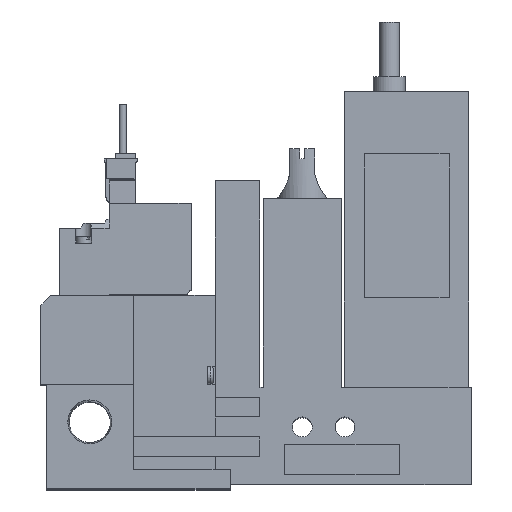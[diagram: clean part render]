
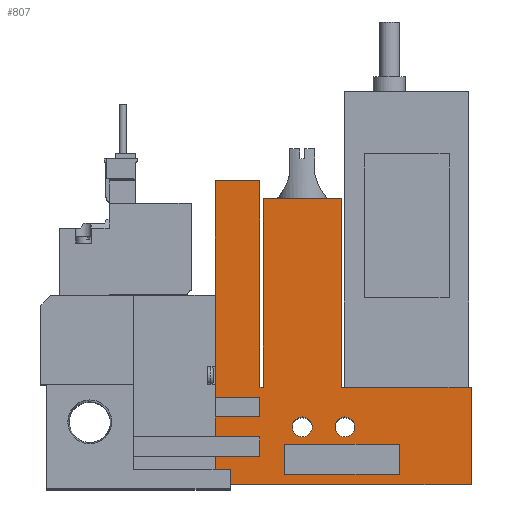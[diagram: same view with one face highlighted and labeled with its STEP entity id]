
A CAD part, top view. The second image highlights one B-rep face of the part: STEP entity #807.
In plain terms, the highlighted planar face has unit normal (0, 0, 1).
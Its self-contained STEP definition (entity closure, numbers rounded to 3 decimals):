
#807=ADVANCED_FACE('',(#1647,#1648,#1649,#1650),#1651,.T.);
#1647=FACE_OUTER_BOUND('',#2684,.T.);
#1648=FACE_BOUND('',#2685,.T.);
#1649=FACE_BOUND('',#2686,.T.);
#1650=FACE_BOUND('',#2687,.T.);
#1651=PLANE('',#2688);
#2684=EDGE_LOOP('',(#5705,#5706,#5707,#5708,#5709,#5710,#5711,#5712,#5713,#5714,#5715,#5716,#5717,#5718,#5719,#5720,#5721,#5722));
#2685=EDGE_LOOP('',(#5723,#5724,#5725,#5726));
#2686=EDGE_LOOP('',(#5727));
#2687=EDGE_LOOP('',(#5728));
#2688=AXIS2_PLACEMENT_3D('',#5729,#5730,#5731);
#5705=ORIENTED_EDGE('',*,*,#7299,.T.);
#5706=ORIENTED_EDGE('',*,*,#7192,.T.);
#5707=ORIENTED_EDGE('',*,*,#7301,.T.);
#5708=ORIENTED_EDGE('',*,*,#7182,.T.);
#5709=ORIENTED_EDGE('',*,*,#7173,.T.);
#5710=ORIENTED_EDGE('',*,*,#7292,.T.);
#5711=ORIENTED_EDGE('',*,*,#7284,.T.);
#5712=ORIENTED_EDGE('',*,*,#7276,.T.);
#5713=ORIENTED_EDGE('',*,*,#7178,.T.);
#5714=ORIENTED_EDGE('',*,*,#7233,.T.);
#5715=ORIENTED_EDGE('',*,*,#7196,.T.);
#5716=ORIENTED_EDGE('',*,*,#7274,.T.);
#5717=ORIENTED_EDGE('',*,*,#7282,.T.);
#5718=ORIENTED_EDGE('',*,*,#7302,.T.);
#5719=ORIENTED_EDGE('',*,*,#7236,.T.);
#5720=ORIENTED_EDGE('',*,*,#7156,.T.);
#5721=ORIENTED_EDGE('',*,*,#7291,.T.);
#5722=ORIENTED_EDGE('',*,*,#7255,.T.);
#5723=ORIENTED_EDGE('',*,*,#7293,.T.);
#5724=ORIENTED_EDGE('',*,*,#7242,.T.);
#5725=ORIENTED_EDGE('',*,*,#7289,.T.);
#5726=ORIENTED_EDGE('',*,*,#7246,.T.);
#5727=ORIENTED_EDGE('',*,*,#7270,.T.);
#5728=ORIENTED_EDGE('',*,*,#7171,.T.);
#5729=CARTESIAN_POINT('',(0.0,0.0,10.0));
#5730=DIRECTION('',(0.0,0.0,1.0));
#5731=DIRECTION('',(1.0,0.0,0.0));
#7156=EDGE_CURVE('',#8721,#8719,#8722,.T.);
#7171=EDGE_CURVE('',#8748,#8748,#8749,.T.);
#7173=EDGE_CURVE('',#8752,#8750,#8753,.T.);
#7178=EDGE_CURVE('',#8756,#8760,#8762,.T.);
#7182=EDGE_CURVE('',#8763,#8752,#8769,.T.);
#7192=EDGE_CURVE('',#8779,#8785,#8787,.T.);
#7196=EDGE_CURVE('',#8794,#8792,#8795,.T.);
#7233=EDGE_CURVE('',#8760,#8794,#8853,.T.);
#7236=EDGE_CURVE('',#8857,#8721,#8858,.T.);
#7242=EDGE_CURVE('',#8861,#8866,#8868,.T.);
#7246=EDGE_CURVE('',#8869,#8874,#8876,.T.);
#7255=EDGE_CURVE('',#8890,#8888,#8891,.T.);
#7270=EDGE_CURVE('',#8912,#8912,#8913,.T.);
#7274=EDGE_CURVE('',#8792,#8916,#8918,.T.);
#7276=EDGE_CURVE('',#8920,#8756,#8921,.T.);
#7282=EDGE_CURVE('',#8916,#8927,#8929,.T.);
#7284=EDGE_CURVE('',#8930,#8920,#8932,.T.);
#7289=EDGE_CURVE('',#8866,#8869,#8937,.T.);
#7291=EDGE_CURVE('',#8719,#8890,#8939,.T.);
#7292=EDGE_CURVE('',#8750,#8930,#8940,.T.);
#7293=EDGE_CURVE('',#8874,#8861,#8941,.T.);
#7299=EDGE_CURVE('',#8888,#8779,#8949,.T.);
#7301=EDGE_CURVE('',#8785,#8763,#8950,.T.);
#7302=EDGE_CURVE('',#8927,#8857,#8951,.T.);
#8719=VERTEX_POINT('',#11218);
#8721=VERTEX_POINT('',#11221);
#8722=LINE('',#11222,#11223);
#8748=VERTEX_POINT('',#11262);
#8749=CIRCLE('',#11263,2.0);
#8750=VERTEX_POINT('',#11264);
#8752=VERTEX_POINT('',#11267);
#8753=LINE('',#11268,#11269);
#8756=VERTEX_POINT('',#11273);
#8760=VERTEX_POINT('',#11279);
#8762=LINE('',#11282,#11283);
#8763=VERTEX_POINT('',#11284);
#8769=LINE('',#11293,#11294);
#8779=VERTEX_POINT('',#11307);
#8785=VERTEX_POINT('',#11316);
#8787=LINE('',#11319,#11320);
#8792=VERTEX_POINT('',#11327);
#8794=VERTEX_POINT('',#11330);
#8795=LINE('',#11331,#11332);
#8853=LINE('',#11424,#11425);
#8857=VERTEX_POINT('',#11431);
#8858=LINE('',#11432,#11433);
#8861=VERTEX_POINT('',#11438);
#8866=VERTEX_POINT('',#11445);
#8868=LINE('',#11448,#11449);
#8869=VERTEX_POINT('',#11450);
#8874=VERTEX_POINT('',#11457);
#8876=LINE('',#11460,#11461);
#8888=VERTEX_POINT('',#11477);
#8890=VERTEX_POINT('',#11480);
#8891=LINE('',#11481,#11482);
#8912=VERTEX_POINT('',#11517);
#8913=CIRCLE('',#11518,2.0);
#8916=VERTEX_POINT('',#11523);
#8918=LINE('',#11526,#11527);
#8920=VERTEX_POINT('',#11530);
#8921=LINE('',#11531,#11532);
#8927=VERTEX_POINT('',#11541);
#8929=LINE('',#11544,#11545);
#8930=VERTEX_POINT('',#11546);
#8932=LINE('',#11549,#11550);
#8937=LINE('',#11559,#11560);
#8939=LINE('',#11563,#11564);
#8940=LINE('',#11565,#11566);
#8941=LINE('',#11567,#11568);
#8949=LINE('',#11580,#11581);
#8950=LINE('',#11582,#11583);
#8951=LINE('',#11584,#11585);
#11218=CARTESIAN_POINT('',(44.1,19.5,10.0));
#11221=CARTESIAN_POINT('',(44.75,19.5,10.0));
#11222=CARTESIAN_POINT('',(44.75,19.5,10.0));
#11223=VECTOR('',#13156,1.0);
#11262=CARTESIAN_POINT('',(63.2,11.5,10.0));
#11263=AXIS2_PLACEMENT_3D('',#13173,#13174,#13175);
#11264=CARTESIAN_POINT('',(35.1,9.5,10.0));
#11267=CARTESIAN_POINT('',(35.1,13.5,10.0));
#11268=CARTESIAN_POINT('',(35.1,0.0,10.0));
#11269=VECTOR('',#13177,1.0);
#11273=CARTESIAN_POINT('',(35.1,5.5,10.0));
#11279=CARTESIAN_POINT('',(35.1,0.0,10.0));
#11282=CARTESIAN_POINT('',(35.1,0.0,10.0));
#11283=VECTOR('',#13182,1.0);
#11284=CARTESIAN_POINT('',(44.1,13.5,10.0));
#11293=CARTESIAN_POINT('',(0.0,13.5,10.0));
#11294=VECTOR('',#13186,1.0);
#11307=CARTESIAN_POINT('',(35.1,17.5,10.0));
#11316=CARTESIAN_POINT('',(44.1,17.5,10.0));
#11319=CARTESIAN_POINT('',(0.0,17.5,10.0));
#11320=VECTOR('',#13200,1.0);
#11327=CARTESIAN_POINT('',(86.6,19.5,10.0));
#11330=CARTESIAN_POINT('',(86.6,0.0,10.0));
#11331=CARTESIAN_POINT('',(86.6,0.0,10.0));
#11332=VECTOR('',#13204,1.0);
#11424=CARTESIAN_POINT('',(18.6,0.0,10.0));
#11425=VECTOR('',#13245,1.0);
#11431=CARTESIAN_POINT('',(44.75,57.5,10.0));
#11432=CARTESIAN_POINT('',(44.75,57.5,10.0));
#11433=VECTOR('',#13248,1.0);
#11438=CARTESIAN_POINT('',(49.1,8.0,10.0));
#11445=CARTESIAN_POINT('',(72.1,8.0,10.0));
#11448=CARTESIAN_POINT('',(0.0,8.0,10.0));
#11449=VECTOR('',#13254,1.0);
#11450=CARTESIAN_POINT('',(72.1,2.0,10.0));
#11457=CARTESIAN_POINT('',(49.1,2.0,10.0));
#11460=CARTESIAN_POINT('',(0.0,2.0,10.0));
#11461=VECTOR('',#13258,1.0);
#11477=CARTESIAN_POINT('',(35.1,61.0,10.0));
#11480=CARTESIAN_POINT('',(44.1,61.0,10.0));
#11481=CARTESIAN_POINT('',(44.1,61.0,10.0));
#11482=VECTOR('',#13273,1.0);
#11517=CARTESIAN_POINT('',(54.6,11.5,10.0));
#11518=AXIS2_PLACEMENT_3D('',#13288,#13289,#13290);
#11523=CARTESIAN_POINT('',(60.45,19.5,10.0));
#11526=CARTESIAN_POINT('',(86.6,19.5,10.0));
#11527=VECTOR('',#13294,1.0);
#11530=CARTESIAN_POINT('',(44.1,5.5,10.0));
#11531=CARTESIAN_POINT('',(0.0,5.5,10.0));
#11532=VECTOR('',#13296,1.0);
#11541=CARTESIAN_POINT('',(60.45,57.5,10.0));
#11544=CARTESIAN_POINT('',(60.45,19.5,10.0));
#11545=VECTOR('',#13304,1.0);
#11546=CARTESIAN_POINT('',(44.1,9.5,10.0));
#11549=CARTESIAN_POINT('',(44.1,0.0,10.0));
#11550=VECTOR('',#13306,1.0);
#11559=CARTESIAN_POINT('',(72.1,0.0,10.0));
#11560=VECTOR('',#13311,1.0);
#11563=CARTESIAN_POINT('',(44.1,19.5,10.0));
#11564=VECTOR('',#13313,1.0);
#11565=CARTESIAN_POINT('',(0.0,9.5,10.0));
#11566=VECTOR('',#13314,1.0);
#11567=CARTESIAN_POINT('',(49.1,0.0,10.0));
#11568=VECTOR('',#13315,1.0);
#11580=CARTESIAN_POINT('',(35.1,61.0,10.0));
#11581=VECTOR('',#13323,1.0);
#11582=CARTESIAN_POINT('',(44.1,0.0,10.0));
#11583=VECTOR('',#13324,1.0);
#11584=CARTESIAN_POINT('',(60.45,57.5,10.0));
#11585=VECTOR('',#13325,1.0);
#13156=DIRECTION('',(-1.0,0.0,0.0));
#13173=CARTESIAN_POINT('',(61.2,11.5,10.0));
#13174=DIRECTION('',(0.0,0.0,-1.0));
#13175=DIRECTION('',(1.0,0.0,0.0));
#13177=DIRECTION('',(0.0,-1.0,0.0));
#13182=DIRECTION('',(0.0,-1.0,0.0));
#13186=DIRECTION('',(-1.0,0.0,0.0));
#13200=DIRECTION('',(1.0,0.0,0.0));
#13204=DIRECTION('',(0.0,1.0,0.0));
#13245=DIRECTION('',(1.0,0.0,0.0));
#13248=DIRECTION('',(0.0,-1.0,0.0));
#13254=DIRECTION('',(1.0,0.0,0.0));
#13258=DIRECTION('',(-1.0,0.0,0.0));
#13273=DIRECTION('',(-1.0,0.0,0.0));
#13288=CARTESIAN_POINT('',(52.6,11.5,10.0));
#13289=DIRECTION('',(0.0,0.0,-1.0));
#13290=DIRECTION('',(1.0,0.0,0.0));
#13294=DIRECTION('',(-1.0,0.0,0.0));
#13296=DIRECTION('',(-1.0,0.0,0.0));
#13304=DIRECTION('',(0.0,1.0,0.0));
#13306=DIRECTION('',(0.0,-1.0,0.0));
#13311=DIRECTION('',(0.0,-1.0,0.0));
#13313=DIRECTION('',(0.0,1.0,0.0));
#13314=DIRECTION('',(1.0,0.0,0.0));
#13315=DIRECTION('',(0.0,1.0,0.0));
#13323=DIRECTION('',(0.0,-1.0,0.0));
#13324=DIRECTION('',(0.0,-1.0,0.0));
#13325=DIRECTION('',(-1.0,0.0,0.0));
